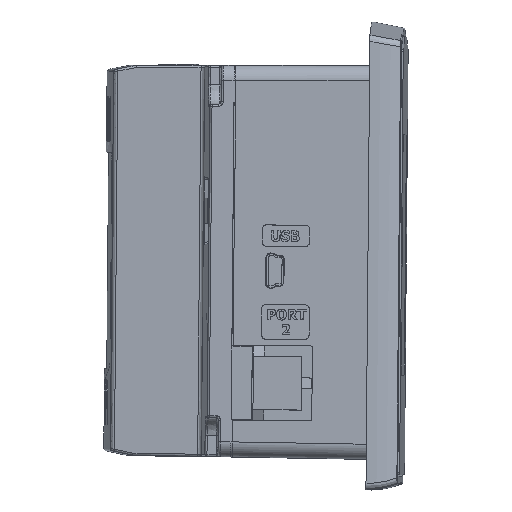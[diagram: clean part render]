
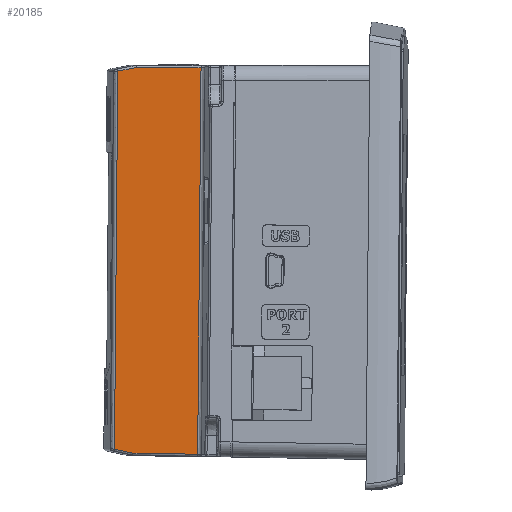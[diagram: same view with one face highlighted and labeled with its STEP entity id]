
A CAD part, front view. The second image highlights one B-rep face of the part: STEP entity #20185.
In plain terms, the highlighted planar face has unit normal (-0.044, -0.999, 0).
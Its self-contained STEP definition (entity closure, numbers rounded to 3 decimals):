
#5533 = AXIS2_PLACEMENT_3D ( 'NONE', #53462, #53468, #53469 ) ;
#16474 = B_SPLINE_CURVE_WITH_KNOTS ( 'NONE', 3,
 ( #51928, #51924, #51938, #51939 ),
 .UNSPECIFIED., .F., .F.,
 ( 4, 4 ),
 ( 0., 0.089 ),
 .UNSPECIFIED. ) ;
#16535 = B_SPLINE_CURVE_WITH_KNOTS ( 'NONE', 3,
 ( #59139, #59137, #59177, #59179, #59181, #59183, #59185 ),
 .UNSPECIFIED., .F., .F.,
 ( 4, 3, 4 ),
 ( 0., 0.002, 0.004 ),
 .UNSPECIFIED. ) ;
#16537 = B_SPLINE_CURVE_WITH_KNOTS ( 'NONE', 3,
 ( #59175, #59173, #59192, #59194, #59196, #59198, #59200 ),
 .UNSPECIFIED., .F., .F.,
 ( 4, 3, 4 ),
 ( 0., 0.044, 0.088 ),
 .UNSPECIFIED. ) ;
#16538 = B_SPLINE_CURVE_WITH_KNOTS ( 'NONE', 3,
 ( #59190, #59188, #59206, #59208, #59210, #59212, #59214 ),
 .UNSPECIFIED., .F., .F.,
 ( 4, 3, 4 ),
 ( 0., 0.003, 0.004 ),
 .UNSPECIFIED. ) ;
#17353 = CARTESIAN_POINT ( 'NONE',  ( -39.211, -91.745, -0.5 ) ) ;
#17651 = CARTESIAN_POINT ( 'NONE',  ( -54.146, -91.093, -0.5 ) ) ;
#17653 = CARTESIAN_POINT ( 'NONE',  ( -54.922, -91.095, -89.498 ) ) ;
#17705 = CARTESIAN_POINT ( 'NONE',  ( -59.19, -90.909, -88.596 ) ) ;
#17719 = CARTESIAN_POINT ( 'NONE',  ( -58.429, -90.907, -1.327 ) ) ;
#17866 = CARTESIAN_POINT ( 'NONE',  ( -39.99, -91.747, -89.758 ) ) ;
#20185 = ADVANCED_FACE ( 'NONE', ( #53466 ), #53459, .F. ) ;
#21310 = ORIENTED_EDGE ( 'NONE', *, *, #55601, .T. ) ;
#21311 = ORIENTED_EDGE ( 'NONE', *, *, #55385, .T. ) ;
#21312 = ORIENTED_EDGE ( 'NONE', *, *, #55602, .T. ) ;
#21313 = ORIENTED_EDGE ( 'NONE', *, *, #55603, .T. ) ;
#21314 = ORIENTED_EDGE ( 'NONE', *, *, #55604, .T. ) ;
#21315 = ORIENTED_EDGE ( 'NONE', *, *, #55605, .T. ) ;
#29848 = VERTEX_POINT ( 'NONE', #17353 ) ;
#30070 = VERTEX_POINT ( 'NONE', #17651 ) ;
#30071 = VERTEX_POINT ( 'NONE', #17653 ) ;
#30100 = VERTEX_POINT ( 'NONE', #17705 ) ;
#30108 = VERTEX_POINT ( 'NONE', #17719 ) ;
#30191 = VERTEX_POINT ( 'NONE', #17866 ) ;
#32783 = EDGE_LOOP ( 'NONE', ( #21310, #21311, #21312, #21313, #21314, #21315 ) ) ;
#37232 = VECTOR ( 'NONE', #59163, 1000. ) ;
#37234 = VECTOR ( 'NONE', #59170, 1000. ) ;
#51924 = CARTESIAN_POINT ( 'NONE',  ( -39.731, -91.747, -60.005 ) ) ;
#51928 = CARTESIAN_POINT ( 'NONE',  ( -39.99, -91.747, -89.758 ) ) ;
#51938 = CARTESIAN_POINT ( 'NONE',  ( -39.471, -91.746, -30.253 ) ) ;
#51939 = CARTESIAN_POINT ( 'NONE',  ( -39.211, -91.745, -0.5 ) ) ;
#53459 = PLANE ( 'NONE',  #5533 ) ;
#53462 = CARTESIAN_POINT ( 'NONE',  ( -61.103, -90.782, 19.047 ) ) ;
#53466 = FACE_OUTER_BOUND ( 'NONE', #32783, .T. ) ;
#53468 = DIRECTION ( 'NONE',  ( 0.044, 0.999, 0. ) ) ;
#53469 = DIRECTION ( 'NONE',  ( -0.999, 0.044, 0.009 ) ) ;
#55385 = EDGE_CURVE ( 'NONE', #30191, #29848, #16474, .T. ) ;
#55601 = EDGE_CURVE ( 'NONE', #30071, #30191, #59158, .T. ) ;
#55602 = EDGE_CURVE ( 'NONE', #29848, #30070, #59165, .T. ) ;
#55603 = EDGE_CURVE ( 'NONE', #30070, #30108, #16535, .T. ) ;
#55604 = EDGE_CURVE ( 'NONE', #30108, #30100, #16537, .T. ) ;
#55605 = EDGE_CURVE ( 'NONE', #30100, #30071, #16538, .T. ) ;
#59137 = CARTESIAN_POINT ( 'NONE',  ( -54.715, -91.069, -0.61 ) ) ;
#59139 = CARTESIAN_POINT ( 'NONE',  ( -54.146, -91.093, -0.5 ) ) ;
#59158 = LINE ( 'NONE', #59161, #37232 ) ;
#59161 = CARTESIAN_POINT ( 'NONE',  ( -62.995, -90.743, -89.357 ) ) ;
#59163 = DIRECTION ( 'NONE',  ( 0.999, -0.044, -0.017 ) ) ;
#59165 = LINE ( 'NONE', #59168, #37234 ) ;
#59168 = CARTESIAN_POINT ( 'NONE',  ( -61.104, -90.79, -0.5 ) ) ;
#59170 = DIRECTION ( 'NONE',  ( -0.999, 0.044, 0. ) ) ;
#59173 = CARTESIAN_POINT ( 'NONE',  ( -58.555, -90.907, -15.872 ) ) ;
#59175 = CARTESIAN_POINT ( 'NONE',  ( -58.429, -90.907, -1.327 ) ) ;
#59177 = CARTESIAN_POINT ( 'NONE',  ( -55.285, -91.044, -0.72 ) ) ;
#59179 = CARTESIAN_POINT ( 'NONE',  ( -55.854, -91.019, -0.83 ) ) ;
#59181 = CARTESIAN_POINT ( 'NONE',  ( -56.712, -90.982, -0.995 ) ) ;
#59183 = CARTESIAN_POINT ( 'NONE',  ( -57.57, -90.944, -1.161 ) ) ;
#59185 = CARTESIAN_POINT ( 'NONE',  ( -58.429, -90.907, -1.327 ) ) ;
#59188 = CARTESIAN_POINT ( 'NONE',  ( -58.334, -90.946, -88.776 ) ) ;
#59190 = CARTESIAN_POINT ( 'NONE',  ( -59.19, -90.909, -88.596 ) ) ;
#59192 = CARTESIAN_POINT ( 'NONE',  ( -58.682, -90.907, -30.417 ) ) ;
#59194 = CARTESIAN_POINT ( 'NONE',  ( -58.809, -90.908, -44.961 ) ) ;
#59196 = CARTESIAN_POINT ( 'NONE',  ( -58.936, -90.908, -59.506 ) ) ;
#59198 = CARTESIAN_POINT ( 'NONE',  ( -59.063, -90.908, -74.051 ) ) ;
#59200 = CARTESIAN_POINT ( 'NONE',  ( -59.19, -90.909, -88.596 ) ) ;
#59206 = CARTESIAN_POINT ( 'NONE',  ( -57.479, -90.983, -88.957 ) ) ;
#59208 = CARTESIAN_POINT ( 'NONE',  ( -56.624, -91.021, -89.138 ) ) ;
#59210 = CARTESIAN_POINT ( 'NONE',  ( -56.057, -91.046, -89.258 ) ) ;
#59212 = CARTESIAN_POINT ( 'NONE',  ( -55.489, -91.07, -89.378 ) ) ;
#59214 = CARTESIAN_POINT ( 'NONE',  ( -54.922, -91.095, -89.498 ) ) ;
